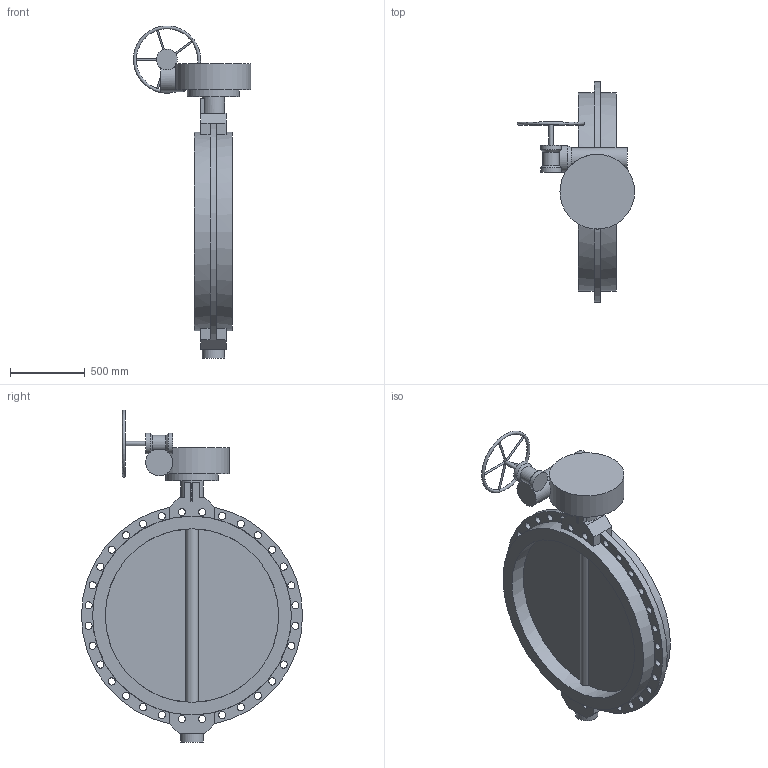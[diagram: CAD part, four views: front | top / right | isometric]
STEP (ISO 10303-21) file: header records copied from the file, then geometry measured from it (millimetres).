
FILE_DESCRIPTION(('STEP AP203'), '1');
FILE_NAME('Çàòâîð 017W.Z(÷óãóí) DN1200 PN16 ðåäóêòîð', '', ('UNSPECIFIED'), ('UNSPECIFIED'), 'ASCON STEP Converter 1.6', 'ASCON Math Kernel', '');
FILE_SCHEMA(('CONFIG_CONTROL_DESIGN'));
Length unit declared in the file: millimetre
Bounding box: 784.99 x 1480 x 2221.24 mm (x, y, z)
Volume: 202092568.7 mm3; surface area: 6781349 mm2
Topology: 1 solids, 1 shells, 760 faces, 2142 edges, 1425 vertices
Faces by surface type: cylinder 567, plane 189, cone 3, torus 1
Full cylindrical faces by diameter (mm): 12 x5, 17.5 x8, 22 x8, 28 x1, 48 x32, 140 x2, 150 x2, 180 x1, 350 x1, 500 x1, 1160.6 x2, 1330 x2
Entity records: 33742 total; most frequent: CARTESIAN_POINT 6995, DIRECTION 4704, ORIENTED_EDGE 4148, EDGE_CURVE 2074, AXIS2_PLACEMENT_3D 1899, VERTEX_POINT 1424, CIRCLE 1138, EDGE_LOOP 940
